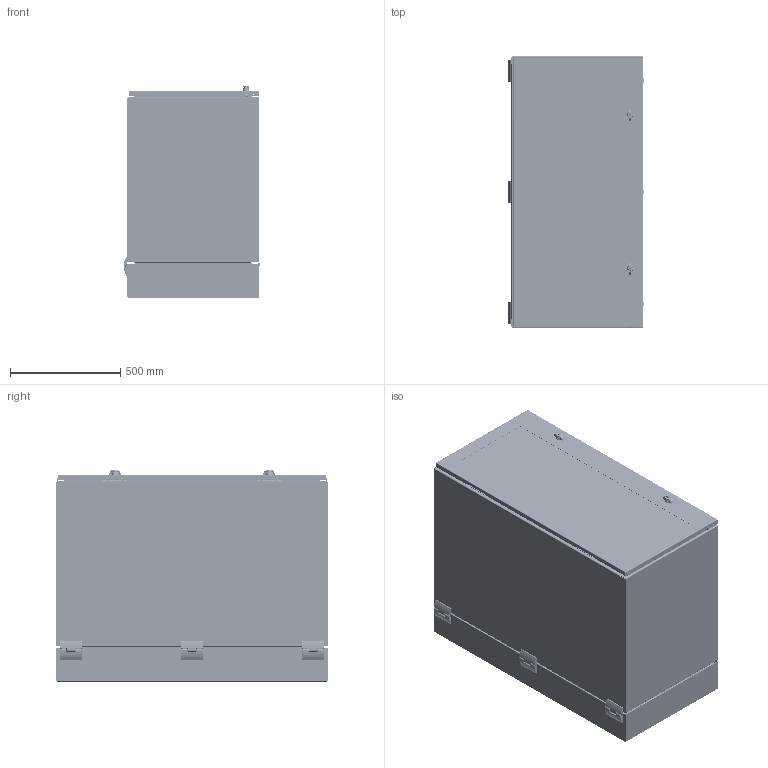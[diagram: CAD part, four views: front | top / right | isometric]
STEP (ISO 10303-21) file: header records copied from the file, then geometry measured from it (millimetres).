
FILE_DESCRIPTION (( 'STEP AP203' ), '1' );
FILE_NAME ('29125.step', '2015-02-10T06:50:25', ( '' ), ( '' ), 'SwSTEP 2.0', 'SolidWorks 2010', '' );
FILE_SCHEMA (( 'CONFIG_CONTROL_DESIGN' ));
Length unit declared in the file: millimetre
Products named in the file (52): 29125; 89078335; 89078334; 89060190; 89060191; 89071699_Installed Config; 89113953; 89113952; 89113951; 89113937; 89074728_89060267; 89074726_Compressed wdw gasket; 89074724_89060269; 60127101_60127101; 60100041_60100041; 87931527_87931527; 87931368_SLEEVE; 99401225; 89074727; 89074725_Compressed; 89071927_FOR 16GA; 99407418; 87794349_87794349; 87556213; 87556214; 87922656; 64138001; 89113746; 89066980; 89066979_WITH STAKE; 89091800; 89066978; 89066977_AS REAMED; 87540581; 87790199; 89090302; 89090300; 89090299_87790201; 60127135_installed position SS; 87543196_Installed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
Assembly tree (153 placements, depth 5):
  29125
    89060212  x3
    87790199  x2
    89090302  x2
      60127199_60127199
      89090300
        87543196_Installed  x2
        60127135_installed position SS  x2
        89090299_87790201
      56906712_56906712
    89114049_89071543  x3
    89060606_89060606  x2
    89066978  x3
      87540581
      89066977_AS REAMED
    89060214  x3
    89072125_87931339  x2
    89060213  x3
    89103319  x3
    89066980  x3
      87540581
      89091800
      89066979_WITH STAKE
    89070550  x3
      89056327
      89070549
    89074728_89060267
      87922656  x16
      87556213  x4
      64138001  x2
      89074726_Compressed wdw gasket
        60127101_60127101  x2
        99401225  x16
        89074724_89060269
        89074725_Compressed
        60100041_60100041
          87931368_SLEEVE
          87931527_87931527
        89074727
      89071927_FOR 16GA  x2
      99407418  x2
      87556214  x2
      87794349_87794349
    89113953
      99401225  x24
      89113937  x2
      89113951
      60100041_60100041  x2
        87931368_SLEEVE
        87931527_87931527
      89113952
    89113746  x3
    89078335
      89071699_Installed Config  x6
      60100041_60100041
        87931368_SLEEVE
        87931527_87931527
      89060191  x2
      89060190  x2
      89074727
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Bounding box: 619.48 x 1233 x 960.23 mm (x, y, z)
Volume: 13311384.8 mm3; surface area: 12332478.2 mm2
Topology: 164 solids, 184 shells, 9745 faces, 24122 edges, 14811 vertices
Faces by surface type: plane 4313, cylinder 2940, bspline 1099, cone 827, torus 418, sphere 148
Entity records: 161402 total; most frequent: CARTESIAN_POINT 67536, ORIENTED_EDGE 18266, DIRECTION 17217, EDGE_CURVE 9133, AXIS2_PLACEMENT_3D 6187, VERTEX_POINT 5649, LINE 4843, VECTOR 4843
